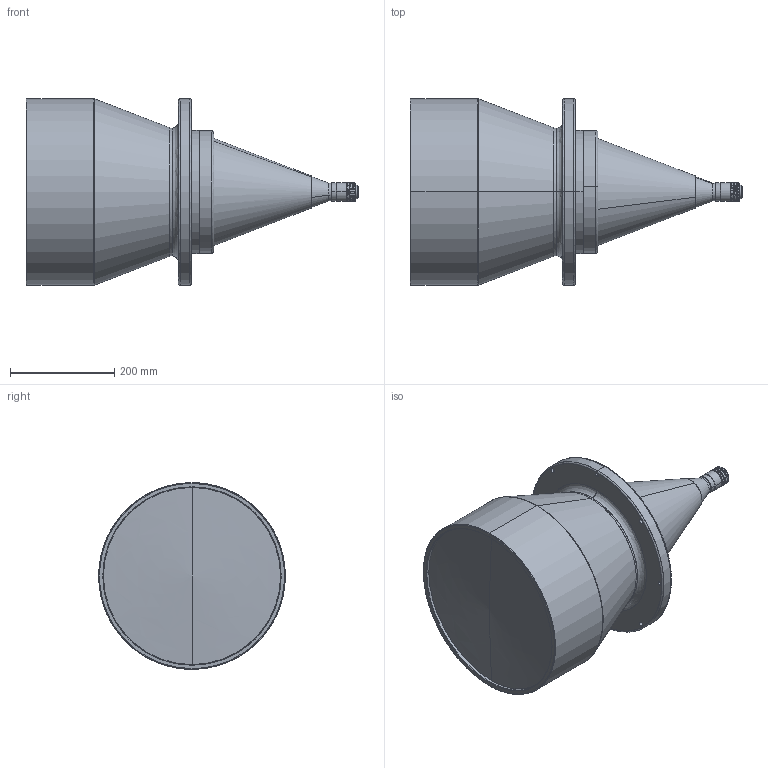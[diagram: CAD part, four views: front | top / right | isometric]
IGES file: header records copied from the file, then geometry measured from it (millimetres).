
Start section: SolidWorks IGES file using analytic representation for surfaces
Global section: file name: F:\BaiduSyncdisk\1-产品  2022-new\DTCM（2023.5.29整体拷过来）\F+B\－－ AL   可调后截距\300S-  AL-ok\DTCM230-300S-AL\3D\DTCM230-300S-AL.IGS; native system: SolidWorks 2017; preprocessor: SolidWorks 2017; author: luo-PC; date: 231122.180739; units: millimetre
Bounding box: 636.92 x 358 x 358 mm (x, y, z)
Surface area: 689204.1 mm2 (no closed solid volume)
Topology: 0 solids, 0 shells, 280 faces, 4398 edges, 4392 vertices
Faces by surface type: revolution 240, bspline 40
